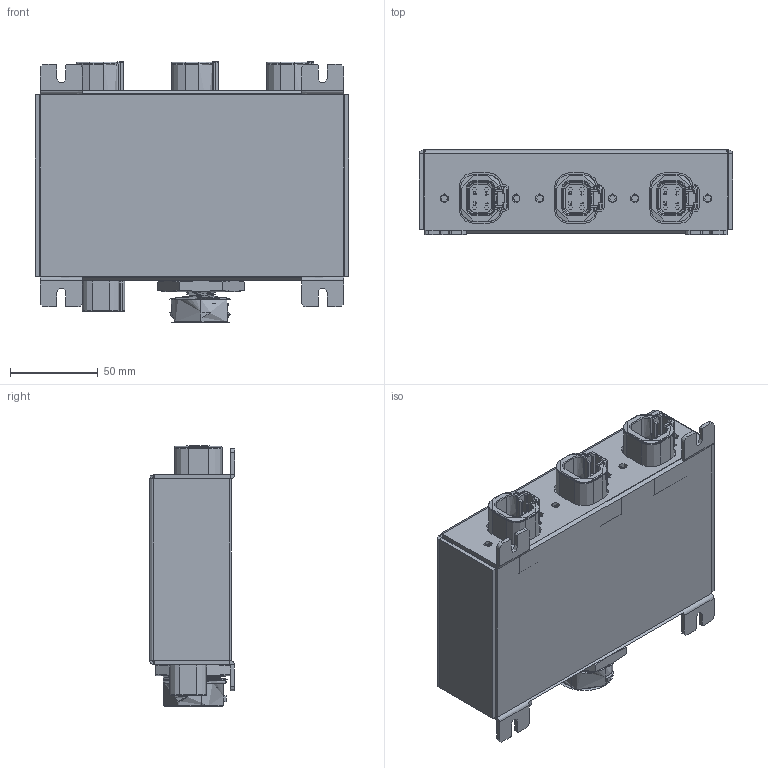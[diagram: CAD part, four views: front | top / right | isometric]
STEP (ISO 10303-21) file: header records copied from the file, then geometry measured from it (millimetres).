
FILE_DESCRIPTION (( 'STEP AP214' ), '1' );
FILE_NAME ('MPDU-006.STEP', '2019-05-06T19:14:23', ( '' ), ( '' ), 'SwSTEP 2.0', 'SolidWorks 2014', '' );
FILE_SCHEMA (( 'AUTOMOTIVE_DESIGN' ));
Length unit declared in the file: inch
Products named in the file (66): User_Library-TO220-7-1; 92949A144_18-8 SS BUTTON-HEAD SOCKET CAP SCREW (1); SW3dPS-LED_SMD0805; MPDU-006; Board_AMP_step5; MP12 BusBar; MP12 Enclosure; c-dtp13-4p-99-3d; Part1^MP12 Assembled; c-dt04-6p-cl09-99-3d; c-2411-002-1805-99-3d; c-hdp24-18-6pn-a-3d; 92949A265_18-8 SS BUTTON-HEAD SOCKET CAP SCREW_92949A265; 92949A144_18-8 SS BUTTON-HEAD SOCKET CAP SCREW (1)_92949A144; AMP step5; 92949A265_18-8 SS BUTTON-HEAD SOCKET CAP SCREW
Assembly tree (66 placements, depth 3):
  User_Library-TO220-7-1
  SW3dPS-LED_SMD0805
  User_Library-TO220-7-1
  MPDU-006
    92949A144_18-8 SS BUTTON-HEAD SOCKET CAP SCREW (1)
    92949A144_18-8 SS BUTTON-HEAD SOCKET CAP SCREW (1)
    92949A144_18-8 SS BUTTON-HEAD SOCKET CAP SCREW (1)
    92949A144_18-8 SS BUTTON-HEAD SOCKET CAP SCREW (1)
    92949A144_18-8 SS BUTTON-HEAD SOCKET CAP SCREW (1)
    92949A144_18-8 SS BUTTON-HEAD SOCKET CAP SCREW (1)
    92949A265_18-8 SS BUTTON-HEAD SOCKET CAP SCREW
    92949A144_18-8 SS BUTTON-HEAD SOCKET CAP SCREW (1)
    92949A144_18-8 SS BUTTON-HEAD SOCKET CAP SCREW (1)
    92949A144_18-8 SS BUTTON-HEAD SOCKET CAP SCREW (1)
    92949A144_18-8 SS BUTTON-HEAD SOCKET CAP SCREW (1)
    92949A265_18-8 SS BUTTON-HEAD SOCKET CAP SCREW
    92949A144_18-8 SS BUTTON-HEAD SOCKET CAP SCREW (1)
    92949A144_18-8 SS BUTTON-HEAD SOCKET CAP SCREW (1)
  SW3dPS-LED_SMD0805
Bounding box: 177.98 x 48.46 x 148.28 mm (x, y, z)
Volume: 473148 mm3; surface area: 240903.8 mm2
Topology: 111 solids, 111 shells, 10703 faces, 28283 edges, 18180 vertices
Faces by surface type: plane 5109, cylinder 3467, bspline 1745, cone 312, torus 42, sphere 28
Entity records: 221229 total; most frequent: CARTESIAN_POINT 76928, ORIENTED_EDGE 22650, DIRECTION 20145, EDGE_CURVE 11325, VERTEX_POINT 7310, AXIS2_PLACEMENT_3D 7220, VECTOR 5705, LINE 5705
